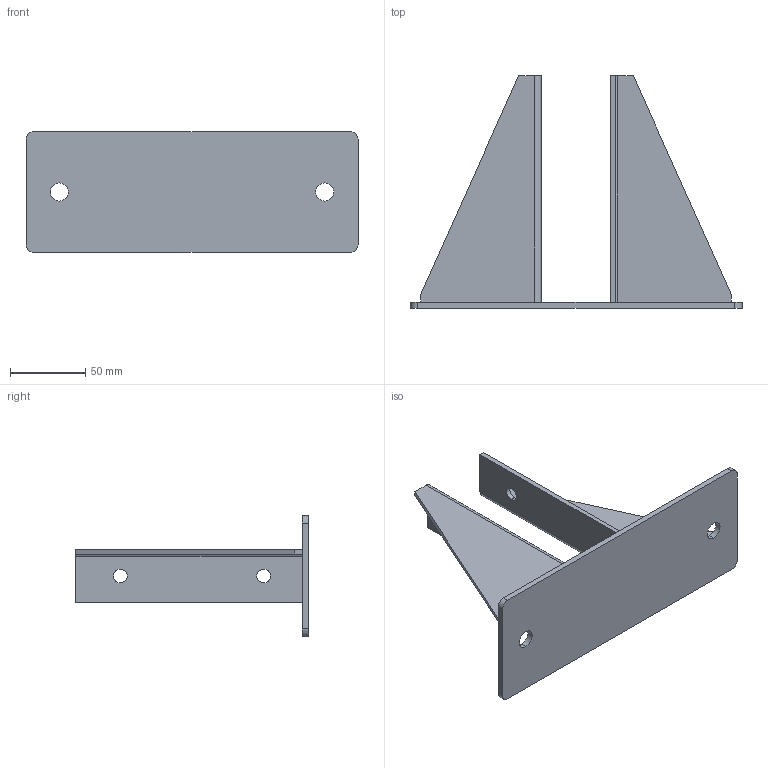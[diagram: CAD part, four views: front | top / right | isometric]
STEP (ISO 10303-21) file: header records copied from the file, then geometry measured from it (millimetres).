
FILE_DESCRIPTION (( 'STEP AP203' ), '1' );
FILE_NAME ('AYAK MONTAJ.STEP', '2018-07-03T12:49:15', ( '' ), ( '' ), 'SwSTEP 2.0', 'SolidWorks 2014', '' );
FILE_SCHEMA (( 'CONFIG_CONTROL_DESIGN' ));
Length unit declared in the file: millimetre
Products named in the file (3): AYAK MONTAJ; alt sac; kanat
Assembly tree (3 placements, depth 2):
  AYAK MONTAJ
    alt sac
    kanat  x2
Bounding box: 220 x 154 x 80 mm (x, y, z)
Volume: 140012.1 mm3; surface area: 87601.7 mm2
Topology: 3 solids, 3 shells, 52 faces, 122 edges, 76 vertices
Faces by surface type: plane 32, cylinder 20
Entity records: 1310 total; most frequent: DIRECTION 185, CARTESIAN_POINT 168, ORIENTED_EDGE 158, EDGE_CURVE 79, AXIS2_PLACEMENT_3D 67, LINE 51, VECTOR 51, VERTEX_POINT 50
